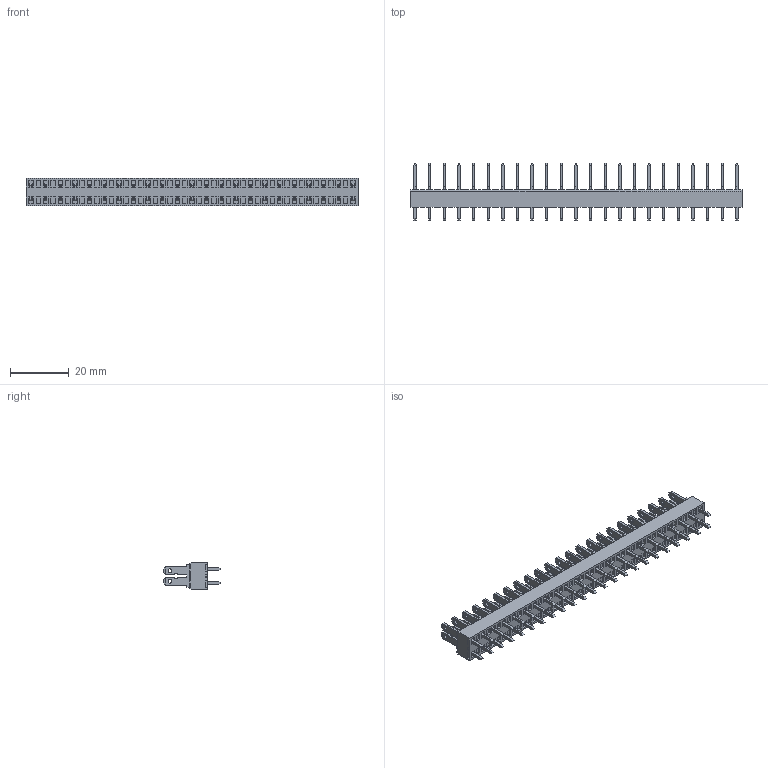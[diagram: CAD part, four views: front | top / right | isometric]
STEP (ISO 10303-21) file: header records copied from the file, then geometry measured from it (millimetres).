
FILE_DESCRIPTION (( 'STEP AP214' ), '1' );
FILE_NAME ('900-S-5-23.STEP', '2007-10-29T16:01:57', ( 'weco' ), ( 'weco' ), 'SwSTEP 2.0', 'SolidWorks 2007', '' );
FILE_SCHEMA (( 'AUTOMOTIVE_DESIGN' ));
Length unit declared in the file: millimetre
Products named in the file (1): 900-S-5-23
Bounding box: 113.5 x 19.5 x 9.4 mm (x, y, z)
Volume: 7037.9 mm3; surface area: 8498.2 mm2
Topology: 47 solids, 47 shells, 2856 faces, 7011 edges, 4430 vertices
Faces by surface type: plane 2439, cylinder 417
Entity records: 82794 total; most frequent: CARTESIAN_POINT 14298, ORIENTED_EDGE 14022, DIRECTION 13559, EDGE_CURVE 7011, LINE 6177, VECTOR 6177, VERTEX_POINT 4430, AXIS2_PLACEMENT_3D 3691
